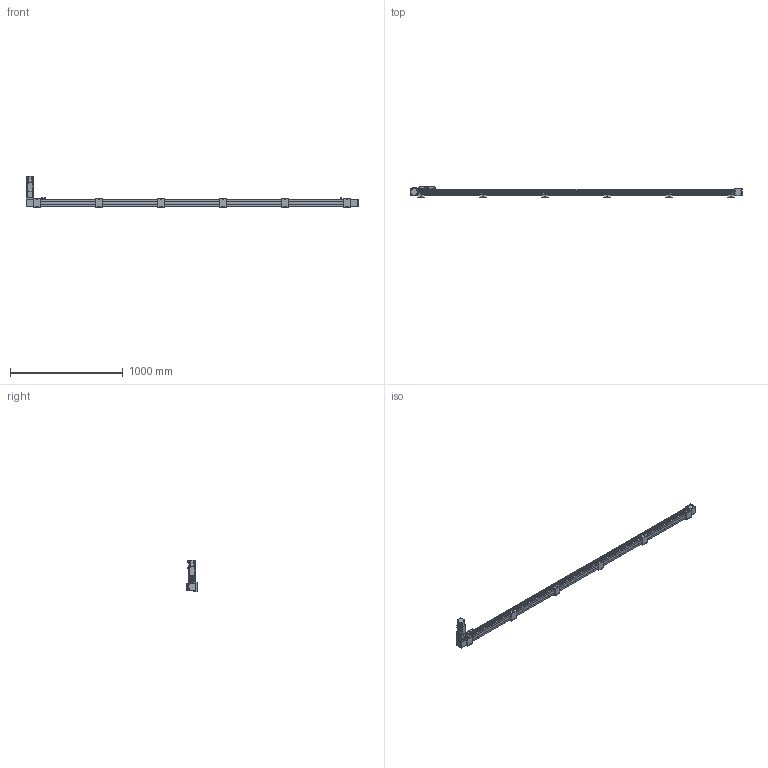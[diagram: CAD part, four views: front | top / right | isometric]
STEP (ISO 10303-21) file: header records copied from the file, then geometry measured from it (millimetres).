
FILE_DESCRIPTION(/* description */ ('STEP AP203'),/* implementation_level */ '2;1');
FILE_NAME(/* name */ 'SK60-P13-S2650-BL-T40-C1-N(0)',/* time_stamp */ '2023-04-06T03:38:08+02:00',/* author */ ('License CC BY-ND 4.0'),/* organization */ ('CADENAS'),/* preprocessor_version */ 'ST-DEVELOPER v19.3',/* originating_system */ 'PARTsolutions',/* authorisation */ ' ');
FILE_SCHEMA (('CONFIG_CONTROL_DESIGN'));
Length unit declared in the file: millimetre
Products named in the file (11): SK60-P13-S2650-BL-T40-C1-N(0); PSC140-sensor; SK60-S450_seat; SK60-S450-BL-C1_slider; SK60_body3; SK60_body6; SK60-BL_body2; T40-p1; SK60_body5; SK60_body4; SK60-S2650-BL-C1_body
Assembly tree (21 placements, depth 2):
  SK60-P13-S2650-BL-T40-C1-N(0)
    PSC140-sensor  x3
    SK60-S450_seat  x6
    SK60-S450-BL-C1_slider
    SK60_body3  x3
    SK60_body6  x2
    SK60-BL_body2  x2
    T40-p1
    SK60_body5
    SK60_body4
    SK60-S2650-BL-C1_body
Bounding box: 2950 x 90 x 278.2 mm (x, y, z)
Volume: 10644793.9 mm3; surface area: 1297836.2 mm2
Topology: 21 solids, 25 shells, 1010 faces, 2501 edges, 1650 vertices
Faces by surface type: plane 640, cylinder 330, cone 38, torus 2
Full cylindrical faces by diameter (mm): 2.8 x3, 3.3 x4, 4.2 x8, 4.5 x26, 4.6 x3, 4.917 x32, 5 x2, 5.478 x4, 5.5 x35, 6.5 x12, 8 x4, 8.5 x4, 9.988 x4, 10 x24, 13.556 x1, 14 x1, 14.586 x1, 19.692 x1, 38.432 x2, 43 x1, 44 x3, 47 x2, 50 x2
Entity records: 19403 total; most frequent: DIRECTION 3300, CARTESIAN_POINT 3293, ORIENTED_EDGE 3050, EDGE_CURVE 1525, AXIS2_PLACEMENT_3D 1104, LINE 1092, VECTOR 1092, VERTEX_POINT 1077
